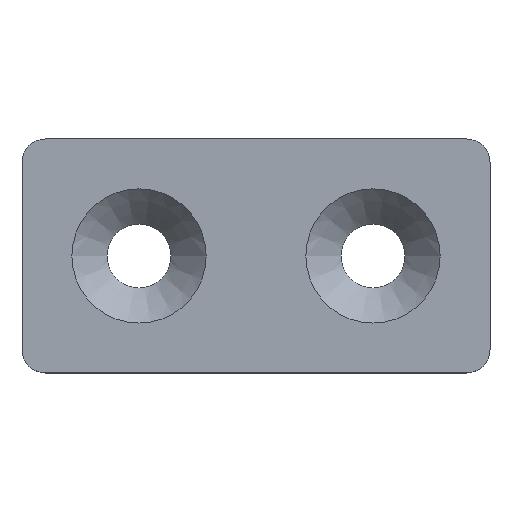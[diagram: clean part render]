
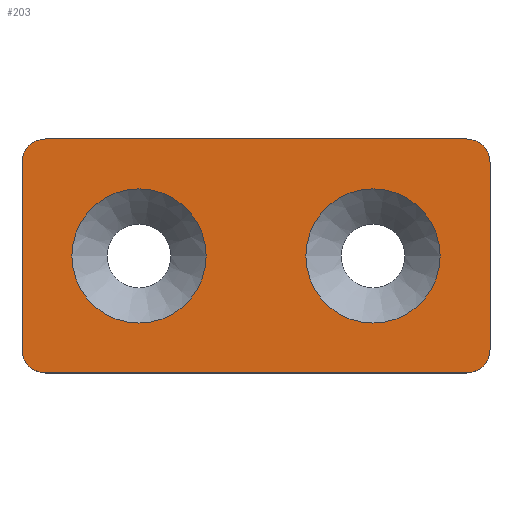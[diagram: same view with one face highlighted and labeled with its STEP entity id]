
A CAD part, top view. The second image highlights one B-rep face of the part: STEP entity #203.
In plain terms, the highlighted planar face has unit normal (0, 0, 1).
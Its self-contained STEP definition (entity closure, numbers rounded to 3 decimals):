
#9 = DIRECTION ( 'NONE',  ( -1., 0., 0. ) ) ;
#14 = DIRECTION ( 'NONE',  ( 1., 0., 0. ) ) ;
#22 = CARTESIAN_POINT ( 'NONE',  ( -8., 8., 3. ) ) ;
#28 = CARTESIAN_POINT ( 'NONE',  ( 28., -8., 3. ) ) ;
#31 = CARTESIAN_POINT ( 'NONE',  ( 28., -10., 3. ) ) ;
#40 = EDGE_CURVE ( 'NONE', #47, #276, #457, .T. ) ;
#45 = VECTOR ( 'NONE', #14, 1000. ) ;
#47 = VERTEX_POINT ( 'NONE', #402 ) ;
#48 = DIRECTION ( 'NONE',  ( 1., 0., 0. ) ) ;
#49 = EDGE_CURVE ( 'NONE', #318, #65, #282, .T. ) ;
#52 = CARTESIAN_POINT ( 'NONE',  ( 30., -8., 3. ) ) ;
#53 = EDGE_LOOP ( 'NONE', ( #98, #179 ) ) ;
#54 = AXIS2_PLACEMENT_3D ( 'NONE', #164, #525, #83 ) ;
#56 = CARTESIAN_POINT ( 'NONE',  ( 10., -10., 3. ) ) ;
#59 = CARTESIAN_POINT ( 'NONE',  ( 5.735, 0., 3. ) ) ;
#64 = DIRECTION ( 'NONE',  ( 0., -1., 0. ) ) ;
#65 = VERTEX_POINT ( 'NONE', #79 ) ;
#66 = CIRCLE ( 'NONE', #84, 5.735 ) ;
#67 = CARTESIAN_POINT ( 'NONE',  ( -10., 0., 3. ) ) ;
#73 = AXIS2_PLACEMENT_3D ( 'NONE', #244, #198, #523 ) ;
#75 = ORIENTED_EDGE ( 'NONE', *, *, #319, .F. ) ;
#79 = CARTESIAN_POINT ( 'NONE',  ( 30., 8., 3. ) ) ;
#83 = DIRECTION ( 'NONE',  ( -1., 0., 0. ) ) ;
#84 = AXIS2_PLACEMENT_3D ( 'NONE', #340, #492, #451 ) ;
#86 = CARTESIAN_POINT ( 'NONE',  ( 10., 0., 3. ) ) ;
#91 = EDGE_CURVE ( 'NONE', #318, #125, #216, .T. ) ;
#94 = DIRECTION ( 'NONE',  ( 0., 0., 1. ) ) ;
#98 = ORIENTED_EDGE ( 'NONE', *, *, #103, .F. ) ;
#101 = ORIENTED_EDGE ( 'NONE', *, *, #357, .T. ) ;
#103 = EDGE_CURVE ( 'NONE', #470, #437, #407, .T. ) ;
#110 = CIRCLE ( 'NONE', #177, 2. ) ;
#115 = VERTEX_POINT ( 'NONE', #52 ) ;
#125 = VERTEX_POINT ( 'NONE', #169 ) ;
#131 = CIRCLE ( 'NONE', #278, 5.735 ) ;
#151 = AXIS2_PLACEMENT_3D ( 'NONE', #172, #489, #300 ) ;
#152 = CARTESIAN_POINT ( 'NONE',  ( 25.735, 0., 3. ) ) ;
#163 = DIRECTION ( 'NONE',  ( 0., 1., 0. ) ) ;
#164 = CARTESIAN_POINT ( 'NONE',  ( 28., 8., 3. ) ) ;
#169 = CARTESIAN_POINT ( 'NONE',  ( -8., 10., 3. ) ) ;
#172 = CARTESIAN_POINT ( 'NONE',  ( 20., 0., 3. ) ) ;
#173 = ORIENTED_EDGE ( 'NONE', *, *, #91, .T. ) ;
#177 = AXIS2_PLACEMENT_3D ( 'NONE', #22, #272, #185 ) ;
#179 = ORIENTED_EDGE ( 'NONE', *, *, #217, .F. ) ;
#185 = DIRECTION ( 'NONE',  ( -1., 0., 0. ) ) ;
#190 = EDGE_CURVE ( 'NONE', #316, #497, #66, .T. ) ;
#191 = DIRECTION ( 'NONE',  ( -1., 0., 0. ) ) ;
#198 = DIRECTION ( 'NONE',  ( 0., 0., -1. ) ) ;
#203 = ADVANCED_FACE ( 'NONE', ( #374, #455, #252 ), #449, .T. ) ;
#215 = ORIENTED_EDGE ( 'NONE', *, *, #257, .F. ) ;
#216 = LINE ( 'NONE', #339, #289 ) ;
#217 = EDGE_CURVE ( 'NONE', #437, #470, #494, .T. ) ;
#227 = EDGE_CURVE ( 'NONE', #47, #397, #419, .T. ) ;
#230 = ORIENTED_EDGE ( 'NONE', *, *, #414, .T. ) ;
#236 = AXIS2_PLACEMENT_3D ( 'NONE', #28, #263, #191 ) ;
#238 = CARTESIAN_POINT ( 'NONE',  ( 0., 0., 3. ) ) ;
#244 = CARTESIAN_POINT ( 'NONE',  ( -8., -8., 3. ) ) ;
#248 = AXIS2_PLACEMENT_3D ( 'NONE', #456, #94, #338 ) ;
#252 = FACE_OUTER_BOUND ( 'NONE', #473, .T. ) ;
#254 = EDGE_LOOP ( 'NONE', ( #503, #264 ) ) ;
#257 = EDGE_CURVE ( 'NONE', #348, #125, #110, .T. ) ;
#263 = DIRECTION ( 'NONE',  ( 0., 0., -1. ) ) ;
#264 = ORIENTED_EDGE ( 'NONE', *, *, #411, .F. ) ;
#270 = CARTESIAN_POINT ( 'NONE',  ( -10., 8., 3. ) ) ;
#272 = DIRECTION ( 'NONE',  ( 0., 0., -1. ) ) ;
#276 = VERTEX_POINT ( 'NONE', #313 ) ;
#278 = AXIS2_PLACEMENT_3D ( 'NONE', #238, #288, #48 ) ;
#282 = CIRCLE ( 'NONE', #54, 2. ) ;
#285 = VECTOR ( 'NONE', #64, 1000. ) ;
#286 = CARTESIAN_POINT ( 'NONE',  ( 30., 0., 3. ) ) ;
#288 = DIRECTION ( 'NONE',  ( 0., 0., 1. ) ) ;
#289 = VECTOR ( 'NONE', #9, 1000. ) ;
#294 = DIRECTION ( 'NONE',  ( 0., 0., 1. ) ) ;
#300 = DIRECTION ( 'NONE',  ( 1., 0., 0. ) ) ;
#310 = CARTESIAN_POINT ( 'NONE',  ( 28., 10., 3. ) ) ;
#313 = CARTESIAN_POINT ( 'NONE',  ( -10., -8., 3. ) ) ;
#316 = VERTEX_POINT ( 'NONE', #59 ) ;
#318 = VERTEX_POINT ( 'NONE', #310 ) ;
#319 = EDGE_CURVE ( 'NONE', #115, #397, #514, .T. ) ;
#331 = LINE ( 'NONE', #286, #493 ) ;
#334 = CARTESIAN_POINT ( 'NONE',  ( -5.735, 0., 3. ) ) ;
#338 = DIRECTION ( 'NONE',  ( 1., 0., 0. ) ) ;
#339 = CARTESIAN_POINT ( 'NONE',  ( 10., 10., 3. ) ) ;
#340 = CARTESIAN_POINT ( 'NONE',  ( 0., 0., 3. ) ) ;
#348 = VERTEX_POINT ( 'NONE', #270 ) ;
#357 = EDGE_CURVE ( 'NONE', #348, #276, #429, .T. ) ;
#360 = ORIENTED_EDGE ( 'NONE', *, *, #49, .F. ) ;
#372 = DIRECTION ( 'NONE',  ( 1., 0., 0. ) ) ;
#374 = FACE_BOUND ( 'NONE', #53, .T. ) ;
#379 = AXIS2_PLACEMENT_3D ( 'NONE', #86, #294, #372 ) ;
#397 = VERTEX_POINT ( 'NONE', #31 ) ;
#401 = CARTESIAN_POINT ( 'NONE',  ( 14.265, 0., 3. ) ) ;
#402 = CARTESIAN_POINT ( 'NONE',  ( -8., -10., 3. ) ) ;
#403 = ORIENTED_EDGE ( 'NONE', *, *, #227, .T. ) ;
#407 = CIRCLE ( 'NONE', #248, 5.735 ) ;
#411 = EDGE_CURVE ( 'NONE', #497, #316, #131, .T. ) ;
#414 = EDGE_CURVE ( 'NONE', #115, #65, #331, .T. ) ;
#419 = LINE ( 'NONE', #56, #45 ) ;
#429 = LINE ( 'NONE', #67, #285 ) ;
#433 = ORIENTED_EDGE ( 'NONE', *, *, #40, .F. ) ;
#437 = VERTEX_POINT ( 'NONE', #401 ) ;
#449 = PLANE ( 'NONE',  #379 ) ;
#451 = DIRECTION ( 'NONE',  ( 1., 0., 0. ) ) ;
#455 = FACE_BOUND ( 'NONE', #254, .T. ) ;
#456 = CARTESIAN_POINT ( 'NONE',  ( 20., 0., 3. ) ) ;
#457 = CIRCLE ( 'NONE', #73, 2. ) ;
#470 = VERTEX_POINT ( 'NONE', #152 ) ;
#473 = EDGE_LOOP ( 'NONE', ( #75, #230, #360, #173, #215, #101, #433, #403 ) ) ;
#489 = DIRECTION ( 'NONE',  ( 0., 0., 1. ) ) ;
#492 = DIRECTION ( 'NONE',  ( 0., 0., 1. ) ) ;
#493 = VECTOR ( 'NONE', #163, 1000. ) ;
#494 = CIRCLE ( 'NONE', #151, 5.735 ) ;
#497 = VERTEX_POINT ( 'NONE', #334 ) ;
#503 = ORIENTED_EDGE ( 'NONE', *, *, #190, .F. ) ;
#514 = CIRCLE ( 'NONE', #236, 2. ) ;
#523 = DIRECTION ( 'NONE',  ( -1., 0., 0. ) ) ;
#525 = DIRECTION ( 'NONE',  ( 0., 0., -1. ) ) ;
